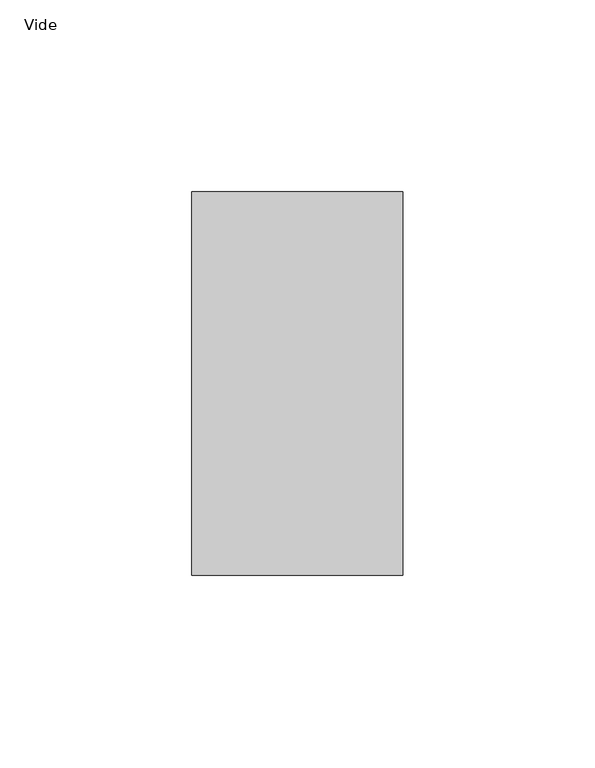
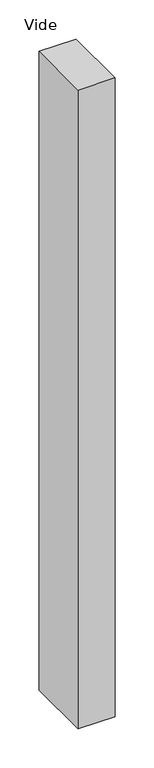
"""IFC4 building model written with IfcOpenShell, lengths in millimetres: plate geometry, Panneau système vide : Vide."""

import ifcopenshell
import ifcopenshell.guid

model = None  # the IFC model being written
_history = None  # IfcOwnerHistory: only IFC2X3 demands one
_inside = {}  # id of a spatial element -> (the spatial element, [elements in it])
_under = {}  # id of a project, library or spatial element -> (it, [spatial elements below it])
_declared = {}  # id of a project -> (the project, [libraries it declares])
_typed = {}  # id of a type object -> (the type object, [elements of that type])
_made_of = {}  # id of a material, layer set ... -> (it, [elements and type objects made of it])


def new_model(schema):
    """Start an empty IFC model of exactly this schema.

    Asked for "IFC4X3", IfcOpenShell would pick the latest addendum, in which some entities
    have other attributes; the version numbers below select the first issue.
    IFC2X3 requires an IfcOwnerHistory on every rooted entity: one is made here for all.
    """
    global model, _history
    if schema == "IFC4X3":
        model = ifcopenshell.file(schema_version=(4, 3, 0, 0))
    else:
        model = ifcopenshell.file(schema=schema)
    _inside.clear()
    _under.clear()
    _declared.clear()
    _typed.clear()
    _made_of.clear()
    _history = None
    if model.schema == "IFC2X3":
        org = make("IfcOrganization", Name="unknown")
        user = make(
            "IfcPersonAndOrganization",
            ThePerson=make("IfcPerson", FamilyName="unknown"),
            TheOrganization=org,
        )
        app = make(
            "IfcApplication",
            ApplicationDeveloper=org,
            Version="unknown",
            ApplicationFullName="unknown",
            ApplicationIdentifier="unknown",
        )
        _history = make(
            "IfcOwnerHistory",
            OwningUser=user,
            OwningApplication=app,
            ChangeAction="ADDED",
            CreationDate=0,
        )
    return model


def make(cls, **values):
    """One entity of the class cls with the attributes given. An attribute that is None is left unset."""
    return model.create_entity(
        cls, **{name: value for name, value in values.items() if value is not None}
    )


def rooted(cls, **values):
    """An entity with a GlobalId (a new one), such as an element, a storey or a relation."""
    return make(cls, GlobalId=ifcopenshell.guid.new(), OwnerHistory=_history, **values)


def si_unit(unit_type, name, prefix=None):
    """IfcSIUnit, for example si_unit("LENGTHUNIT", "METRE", prefix="MILLI")."""
    return make("IfcSIUnit", UnitType=unit_type, Prefix=prefix, Name=name)


def assignment(units):
    """IfcUnitAssignment: the units of a project."""
    return None if units is None else make("IfcUnitAssignment", Units=units)


def point(xyz):
    """IfcCartesianPoint."""
    return None if xyz is None else make("IfcCartesianPoint", Coordinates=xyz)


def direction(xyz):
    """IfcDirection."""
    return None if xyz is None else make("IfcDirection", DirectionRatios=xyz)


def frame(location, z_axis=None, x_axis=None):
    """IfcAxis2Placement3D, a coordinate frame: its origin and axes. An axis left out is left unset."""
    return make(
        "IfcAxis2Placement3D",
        Location=point(location),
        Axis=direction(z_axis),
        RefDirection=direction(x_axis),
    )


def origin():
    """The frame at (0, 0, 0) with its axes left unset."""
    return frame((0.0, 0.0, 0.0))


def origin_with_axes():
    """The frame at (0, 0, 0) with the z axis (0, 0, 1) and the x axis (1, 0, 0) written out."""
    return frame((0.0, 0.0, 0.0), z_axis=(0.0, 0.0, 1.0), x_axis=(1.0, 0.0, 0.0))


def place(relative_to, where):
    """IfcLocalPlacement: puts the frame where relative to a parent placement (None: the world)."""
    return make(
        "IfcLocalPlacement", PlacementRelTo=relative_to, RelativePlacement=where
    )


def context(
    kind, dimensions, precision=None, world=None, true_north=None, identifier=None
):
    """IfcGeometricRepresentationContext, for example the 3D "Model" context."""
    return make(
        "IfcGeometricRepresentationContext",
        ContextIdentifier=identifier,
        ContextType=kind,
        CoordinateSpaceDimension=dimensions,
        Precision=precision,
        WorldCoordinateSystem=world,
        TrueNorth=true_north,
    )


def project(units=None, contexts=None):
    """IfcProject with its units and contexts."""
    return rooted(
        "IfcProject",
        Name="project",
        RepresentationContexts=contexts,
        UnitsInContext=assignment(units),
    )


def spatial(cls, under=None, at=None, **own):
    """A site, building, storey or space (cls), placed at a placement, below another one or the project."""
    s = rooted(cls, ObjectPlacement=at, **own)
    if under is not None:
        _under.setdefault(under.id(), (under, []))[1].append(s)
    return s


def polyline(points):
    """IfcPolyline through the points."""
    return make("IfcPolyline", Points=[point(p) for p in points])


def outline(outer, holes=None, kind="AREA"):
    """IfcArbitraryClosedProfileDef: a profile drawn as a closed curve; with holes, ...WithVoids."""
    if holes is None:
        return make("IfcArbitraryClosedProfileDef", ProfileType=kind, OuterCurve=outer)
    return make(
        "IfcArbitraryProfileDefWithVoids",
        ProfileType=kind,
        OuterCurve=outer,
        InnerCurves=holes,
    )


def extrude(swept, where, along, depth):
    """IfcExtrudedAreaSolid: the profile swept, set in the frame where, extruded along a direction by depth."""
    return make(
        "IfcExtrudedAreaSolid",
        SweptArea=swept,
        Position=where,
        ExtrudedDirection=direction(along),
        Depth=depth,
    )


def shape(context_of_items, identifier, shape_type, items):
    """IfcShapeRepresentation: the items that make up one representation, for example the "Body"."""
    return make(
        "IfcShapeRepresentation",
        ContextOfItems=context_of_items,
        RepresentationIdentifier=identifier,
        RepresentationType=shape_type,
        Items=items,
    )


def source(mapping_origin, context_of_items, identifier, shape_type, items):
    """IfcRepresentationMap: a shape defined once, which mapped items show again and again."""
    return make(
        "IfcRepresentationMap",
        MappingOrigin=mapping_origin,
        MappedRepresentation=shape(context_of_items, identifier, shape_type, items),
    )


def transform(
    local_origin,
    x_axis=None,
    y_axis=None,
    z_axis=None,
    scale=None,
    scale2=None,
    scale3=None,
    uniform=True,
):
    """IfcCartesianTransformationOperator3D, or its non-uniform kind. x_axis, y_axis, z_axis: its Axis1, 2, 3."""
    if uniform:
        return make(
            "IfcCartesianTransformationOperator3D",
            Axis1=direction(x_axis),
            Axis2=direction(y_axis),
            LocalOrigin=point(local_origin),
            Scale=scale,
            Axis3=direction(z_axis),
        )
    return make(
        "IfcCartesianTransformationOperator3DnonUniform",
        Axis1=direction(x_axis),
        Axis2=direction(y_axis),
        LocalOrigin=point(local_origin),
        Scale=scale,
        Axis3=direction(z_axis),
        Scale2=scale2,
        Scale3=scale3,
    )


def mapped(mapping_source, mapping_target):
    """IfcMappedItem: shows the shape of a source again, moved by a transform."""
    return make(
        "IfcMappedItem", MappingSource=mapping_source, MappingTarget=mapping_target
    )


def made_of(thing, what):
    """Note that an element or type object is made of a material, layer set ...; save() writes the relation."""
    if what is not None:
        _made_of.setdefault(what.id(), (what, []))[1].append(thing)
    return thing


def element(
    cls,
    number,
    at=None,
    inside=None,
    cuts=None,
    type_object=None,
    material=None,
    context=None,
    identifier="Body",
    shape_type=None,
    held_by="IfcProductDefinitionShape",
    body=None,
    shapes=None,
    **own,
):
    """One element of the class cls, such as IfcWall. Its Tag is "e" and its number.

    at: its placement. inside: the storey or other place that contains it. cuts: it is an
    opening in that element (IfcRelVoidsElement). A single representation is given by context,
    identifier, shape_type and body (its items); several are given by shapes. held_by: the class
    of the entity that holds the representations. save() writes the other relations.
    """
    e = rooted(cls, Tag="e%d" % number, ObjectPlacement=at, **own)
    if body is not None:
        shapes = [shape(context, identifier, shape_type, body)]
    if shapes is not None:
        e.Representation = make(held_by, Representations=shapes)
    if inside is not None:
        _inside.setdefault(inside.id(), (inside, []))[1].append(e)
    if cuts is not None:
        rooted(
            "IfcRelVoidsElement", RelatingBuildingElement=cuts, RelatedOpeningElement=e
        )
    if type_object is not None:
        _typed.setdefault(type_object.id(), (type_object, []))[1].append(e)
    return made_of(e, material)


def aggregate(whole, parts):
    """IfcRelAggregates: a whole, such as a stair, and the parts it consists of."""
    return rooted("IfcRelAggregates", RelatingObject=whole, RelatedObjects=parts)


def save(model, path):
    """Write the relations noted so far, then the file.

    IfcRelAggregates (storeys below a building ...), IfcRelContainedInSpatialStructure (elements
    in a storey), IfcRelDefinesByType, IfcRelAssociatesMaterial and IfcRelDeclares: one each for
    every whole, place, type object, material and project.
    """
    for whole, parts in _under.values():
        aggregate(whole, parts)
    for where, things in _inside.values():
        rooted(
            "IfcRelContainedInSpatialStructure",
            RelatedElements=things,
            RelatingStructure=where,
        )
    for kind, things in _typed.values():
        rooted("IfcRelDefinesByType", RelatedObjects=things, RelatingType=kind)
    for what, things in _made_of.values():
        rooted("IfcRelAssociatesMaterial", RelatedObjects=things, RelatingMaterial=what)
    for by, libraries in _declared.values():
        rooted("IfcRelDeclares", RelatingContext=by, RelatedDefinitions=libraries)
    model.write(path)


def vide_b80c15c2(model_context):
    return source(origin(), model_context, "Body", "SweptSolid", [
        extrude(outline(polyline([(27.5000002, 50.0), (-27.5000002, 50.0), (-27.5000002, 150.0), (27.5000002, 150.0), (27.5000002, 50.0)])), origin_with_axes(), (0.0, 0.0, 1.0), 1000.0),
    ])


if __name__ == "__main__":
    model = new_model("IFC4")
    model_context = context("Model", 3, world=origin())
    ifc_project = project(units=[si_unit("LENGTHUNIT", "METRE", prefix="MILLI")], contexts=[model_context])
    site = spatial("IfcSite", under=ifc_project)
    building = spatial("IfcBuilding", under=site)
    placement = place(None, origin())
    vide_shape = vide_b80c15c2(model_context)
    element("IfcPlate", 1, ObjectType="Panneau système vide : Vide", at=placement, inside=building, context=model_context, shape_type="MappedRepresentation", body=[
        mapped(vide_shape, transform((0.0, 0.0, 0.0), x_axis=(1.0, 0.0, 0.0), y_axis=(0.0, 1.0, 0.0), z_axis=(0.0, 0.0, 1.0))),
    ])
    save(model, "model.ifc")
